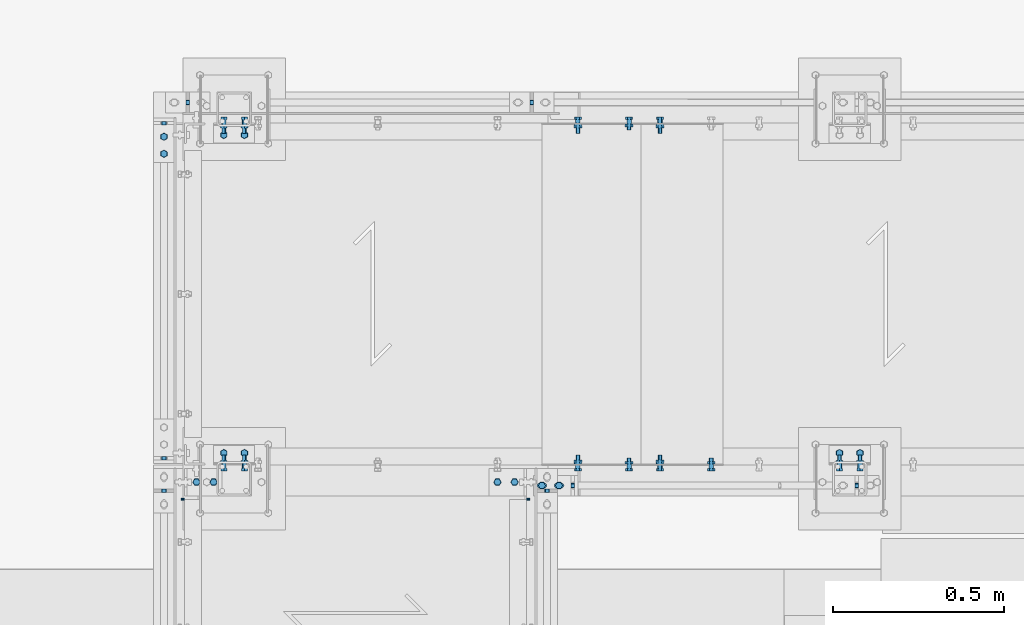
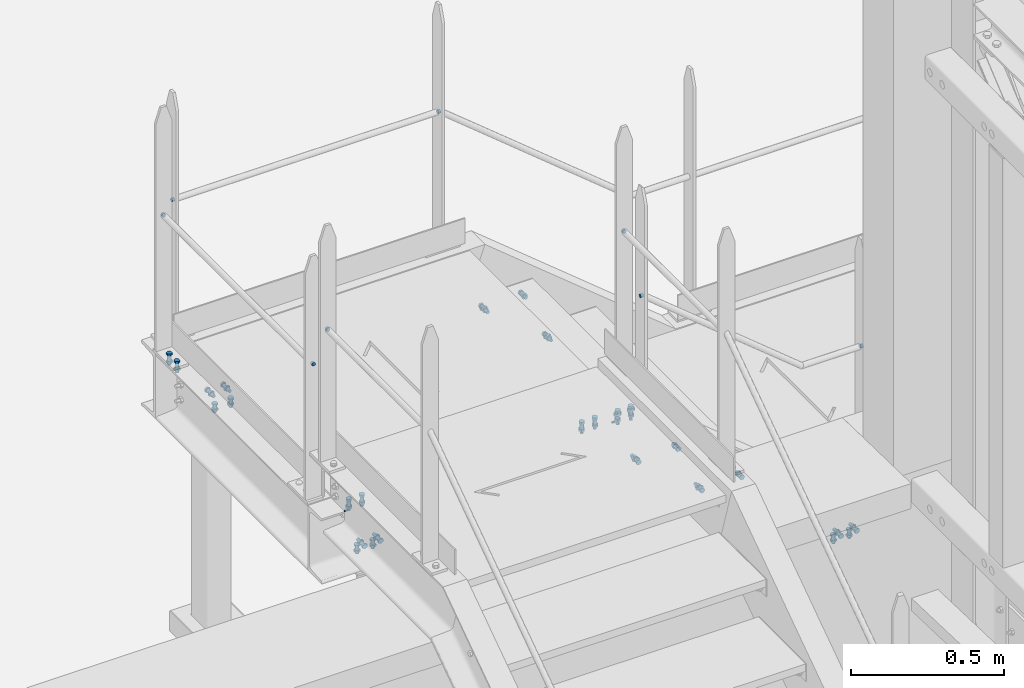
# One storey, part 337 of 362: 27 mechanical fasteners.
"""IFC2X3 building model written with IfcOpenShell, lengths in millimetres."""

import ifcopenshell
import ifcopenshell.guid

model = None  # the IFC model being written
_history = None  # IfcOwnerHistory: only IFC2X3 demands one
_inside = {}  # id of a spatial element -> (the spatial element, [elements in it])
_under = {}  # id of a project, library or spatial element -> (it, [spatial elements below it])
_declared = {}  # id of a project -> (the project, [libraries it declares])
_typed = {}  # id of a type object -> (the type object, [elements of that type])
_made_of = {}  # id of a material, layer set ... -> (it, [elements and type objects made of it])


def new_model(schema):
    """Start an empty IFC model of exactly this schema.

    Asked for "IFC4X3", IfcOpenShell would pick the latest addendum, in which some entities
    have other attributes; the version numbers below select the first issue.
    IFC2X3 requires an IfcOwnerHistory on every rooted entity: one is made here for all.
    """
    global model, _history
    if schema == "IFC4X3":
        model = ifcopenshell.file(schema_version=(4, 3, 0, 0))
    else:
        model = ifcopenshell.file(schema=schema)
    _inside.clear()
    _under.clear()
    _declared.clear()
    _typed.clear()
    _made_of.clear()
    _history = None
    if model.schema == "IFC2X3":
        org = make("IfcOrganization", Name="unknown")
        user = make(
            "IfcPersonAndOrganization",
            ThePerson=make("IfcPerson", FamilyName="unknown"),
            TheOrganization=org,
        )
        app = make(
            "IfcApplication",
            ApplicationDeveloper=org,
            Version="unknown",
            ApplicationFullName="unknown",
            ApplicationIdentifier="unknown",
        )
        _history = make(
            "IfcOwnerHistory",
            OwningUser=user,
            OwningApplication=app,
            ChangeAction="ADDED",
            CreationDate=0,
        )
    return model


def make(cls, **values):
    """One entity of the class cls with the attributes given. An attribute that is None is left unset."""
    return model.create_entity(
        cls, **{name: value for name, value in values.items() if value is not None}
    )


def rooted(cls, **values):
    """An entity with a GlobalId (a new one), such as an element, a storey or a relation."""
    return make(cls, GlobalId=ifcopenshell.guid.new(), OwnerHistory=_history, **values)


def si_unit(unit_type, name, prefix=None):
    """IfcSIUnit, for example si_unit("LENGTHUNIT", "METRE", prefix="MILLI")."""
    return make("IfcSIUnit", UnitType=unit_type, Prefix=prefix, Name=name)


def assignment(units):
    """IfcUnitAssignment: the units of a project."""
    return None if units is None else make("IfcUnitAssignment", Units=units)


def point(xyz):
    """IfcCartesianPoint."""
    return None if xyz is None else make("IfcCartesianPoint", Coordinates=xyz)


def direction(xyz):
    """IfcDirection."""
    return None if xyz is None else make("IfcDirection", DirectionRatios=xyz)


def frame(location, z_axis=None, x_axis=None):
    """IfcAxis2Placement3D, a coordinate frame: its origin and axes. An axis left out is left unset."""
    return make(
        "IfcAxis2Placement3D",
        Location=point(location),
        Axis=direction(z_axis),
        RefDirection=direction(x_axis),
    )


def frame_2d(location, x_axis=None):
    """IfcAxis2Placement2D, a coordinate frame in the plane: its origin and x axis."""
    return make(
        "IfcAxis2Placement2D", Location=point(location), RefDirection=direction(x_axis)
    )


def origin_with_axes():
    """The frame at (0, 0, 0) with the z axis (0, 0, 1) and the x axis (1, 0, 0) written out."""
    return frame((0.0, 0.0, 0.0), z_axis=(0.0, 0.0, 1.0), x_axis=(1.0, 0.0, 0.0))


def origin_2d_with_axis():
    """The frame at (0, 0) in the plane with the x axis (1, 0) written out."""
    return frame_2d((0.0, 0.0), x_axis=(1.0, 0.0))


def place(relative_to, where):
    """IfcLocalPlacement: puts the frame where relative to a parent placement (None: the world)."""
    return make(
        "IfcLocalPlacement", PlacementRelTo=relative_to, RelativePlacement=where
    )


def context(
    kind, dimensions, precision=None, world=None, true_north=None, identifier=None
):
    """IfcGeometricRepresentationContext, for example the 3D "Model" context."""
    return make(
        "IfcGeometricRepresentationContext",
        ContextIdentifier=identifier,
        ContextType=kind,
        CoordinateSpaceDimension=dimensions,
        Precision=precision,
        WorldCoordinateSystem=world,
        TrueNorth=true_north,
    )


def subcontext(parent, identifier, kind, view, scale=None):
    """IfcGeometricRepresentationSubContext, for example "Body" below "Model"."""
    return make(
        "IfcGeometricRepresentationSubContext",
        ContextIdentifier=identifier,
        ContextType=kind,
        ParentContext=parent,
        TargetScale=scale,
        TargetView=view,
    )


def project(units=None, contexts=None):
    """IfcProject with its units and contexts."""
    return rooted(
        "IfcProject",
        Name="project",
        RepresentationContexts=contexts,
        UnitsInContext=assignment(units),
    )


def spatial(cls, under=None, at=None, **own):
    """A site, building, storey or space (cls), placed at a placement, below another one or the project."""
    s = rooted(cls, ObjectPlacement=at, **own)
    if under is not None:
        _under.setdefault(under.id(), (under, []))[1].append(s)
    return s


def polyline(points):
    """IfcPolyline through the points."""
    return make("IfcPolyline", Points=[point(p) for p in points])


def circle_curve(where, radius):
    """IfcCircle in the frame where."""
    return make("IfcCircle", Position=where, Radius=radius)


def parameter(value):
    """IfcParameterValue: where a trimmed curve begins or ends, as a parameter of its basis curve."""
    return model.create_entity("IfcParameterValue", value)


def trimmed(basis, trim1, trim2, sense, master):
    """IfcTrimmedCurve: the piece of a basis curve between two trims."""
    return make(
        "IfcTrimmedCurve",
        BasisCurve=basis,
        Trim1=trim1,
        Trim2=trim2,
        SenseAgreement=sense,
        MasterRepresentation=master,
    )


def segment(curve, same_sense, transition):
    """IfcCompositeCurveSegment."""
    return make(
        "IfcCompositeCurveSegment",
        Transition=transition,
        SameSense=same_sense,
        ParentCurve=curve,
    )


def composite_curve(segments, self_intersect=None):
    """IfcCompositeCurve: segments joined end to end."""
    return make("IfcCompositeCurve", Segments=segments, SelfIntersect=self_intersect)


def profile(cls, at=None, kind="AREA", **sizes):
    """A parametric profile (cls). Its sizes go by their IFC names, for example OverallWidth=200.0."""
    return make(cls, ProfileType=kind, Position=at, **sizes)


def circle(**sizes):
    """IfcCircleProfileDef."""
    return profile("IfcCircleProfileDef", **sizes)


def outline(outer, holes=None, kind="AREA"):
    """IfcArbitraryClosedProfileDef: a profile drawn as a closed curve; with holes, ...WithVoids."""
    if holes is None:
        return make("IfcArbitraryClosedProfileDef", ProfileType=kind, OuterCurve=outer)
    return make(
        "IfcArbitraryProfileDefWithVoids",
        ProfileType=kind,
        OuterCurve=outer,
        InnerCurves=holes,
    )


def extrude(swept, where, along, depth):
    """IfcExtrudedAreaSolid: the profile swept, set in the frame where, extruded along a direction by depth."""
    return make(
        "IfcExtrudedAreaSolid",
        SweptArea=swept,
        Position=where,
        ExtrudedDirection=direction(along),
        Depth=depth,
    )


def shape(context_of_items, identifier, shape_type, items):
    """IfcShapeRepresentation: the items that make up one representation, for example the "Body"."""
    return make(
        "IfcShapeRepresentation",
        ContextOfItems=context_of_items,
        RepresentationIdentifier=identifier,
        RepresentationType=shape_type,
        Items=items,
    )


def source(mapping_origin, context_of_items, identifier, shape_type, items):
    """IfcRepresentationMap: a shape defined once, which mapped items show again and again."""
    return make(
        "IfcRepresentationMap",
        MappingOrigin=mapping_origin,
        MappedRepresentation=shape(context_of_items, identifier, shape_type, items),
    )


def transform(
    local_origin,
    x_axis=None,
    y_axis=None,
    z_axis=None,
    scale=None,
    scale2=None,
    scale3=None,
    uniform=True,
):
    """IfcCartesianTransformationOperator3D, or its non-uniform kind. x_axis, y_axis, z_axis: its Axis1, 2, 3."""
    if uniform:
        return make(
            "IfcCartesianTransformationOperator3D",
            Axis1=direction(x_axis),
            Axis2=direction(y_axis),
            LocalOrigin=point(local_origin),
            Scale=scale,
            Axis3=direction(z_axis),
        )
    return make(
        "IfcCartesianTransformationOperator3DnonUniform",
        Axis1=direction(x_axis),
        Axis2=direction(y_axis),
        LocalOrigin=point(local_origin),
        Scale=scale,
        Axis3=direction(z_axis),
        Scale2=scale2,
        Scale3=scale3,
    )


def mapped(mapping_source, mapping_target):
    """IfcMappedItem: shows the shape of a source again, moved by a transform."""
    return make(
        "IfcMappedItem", MappingSource=mapping_source, MappingTarget=mapping_target
    )


def material(Name=None, Category=None):
    """IfcMaterial."""
    return make("IfcMaterial", Name=Name, Category=Category)


def made_of(thing, what):
    """Note that an element or type object is made of a material, layer set ...; save() writes the relation."""
    if what is not None:
        _made_of.setdefault(what.id(), (what, []))[1].append(thing)
    return thing


def type_object(cls, material=None, **own):
    """A type object (cls), such as IfcWallType, which elements share."""
    return made_of(rooted(cls, **own), material)


def element(
    cls,
    number,
    at=None,
    inside=None,
    cuts=None,
    type_object=None,
    material=None,
    context=None,
    identifier="Body",
    shape_type=None,
    held_by="IfcProductDefinitionShape",
    body=None,
    shapes=None,
    **own,
):
    """One element of the class cls, such as IfcWall. Its Tag is "e" and its number.

    at: its placement. inside: the storey or other place that contains it. cuts: it is an
    opening in that element (IfcRelVoidsElement). A single representation is given by context,
    identifier, shape_type and body (its items); several are given by shapes. held_by: the class
    of the entity that holds the representations. save() writes the other relations.
    """
    e = rooted(cls, Tag="e%d" % number, ObjectPlacement=at, **own)
    if body is not None:
        shapes = [shape(context, identifier, shape_type, body)]
    if shapes is not None:
        e.Representation = make(held_by, Representations=shapes)
    if inside is not None:
        _inside.setdefault(inside.id(), (inside, []))[1].append(e)
    if cuts is not None:
        rooted(
            "IfcRelVoidsElement", RelatingBuildingElement=cuts, RelatedOpeningElement=e
        )
    if type_object is not None:
        _typed.setdefault(type_object.id(), (type_object, []))[1].append(e)
    return made_of(e, material)


def aggregate(whole, parts):
    """IfcRelAggregates: a whole, such as a stair, and the parts it consists of."""
    return rooted("IfcRelAggregates", RelatingObject=whole, RelatedObjects=parts)


def save(model, path):
    """Write the relations noted so far, then the file.

    IfcRelAggregates (storeys below a building ...), IfcRelContainedInSpatialStructure (elements
    in a storey), IfcRelDefinesByType, IfcRelAssociatesMaterial and IfcRelDeclares: one each for
    every whole, place, type object, material and project.
    """
    for whole, parts in _under.values():
        aggregate(whole, parts)
    for where, things in _inside.values():
        rooted(
            "IfcRelContainedInSpatialStructure",
            RelatedElements=things,
            RelatingStructure=where,
        )
    for kind, things in _typed.values():
        rooted("IfcRelDefinesByType", RelatedObjects=things, RelatingType=kind)
    for what, things in _made_of.values():
        rooted("IfcRelAssociatesMaterial", RelatedObjects=things, RelatingMaterial=what)
    for by, libraries in _declared.values():
        rooted("IfcRelDeclares", RelatingContext=by, RelatedDefinitions=libraries)
    model.write(path)


model = new_model("IFC2X3")

# Units and contexts
model_context = context("Model", 3, precision=1e-05, world=origin_with_axes())
body_context = subcontext(model_context, "Body", "Model", "MODEL_VIEW")
ifc_project = project(units=[si_unit("LENGTHUNIT", "METRE", prefix="MILLI"), si_unit("AREAUNIT", "SQUARE_METRE"), si_unit("VOLUMEUNIT", "CUBIC_METRE"), si_unit("MASSUNIT", "GRAM", prefix="KILO"), si_unit("TIMEUNIT", "SECOND"), si_unit("PLANEANGLEUNIT", "RADIAN"), si_unit("SOLIDANGLEUNIT", "STERADIAN"), si_unit("THERMODYNAMICTEMPERATUREUNIT", "DEGREE_CELSIUS"), si_unit("LUMINOUSINTENSITYUNIT", "LUMEN")], contexts=[model_context])

# Site, building, storey
site_placement = place(None, origin_with_axes())
site = spatial("IfcSite", under=ifc_project, at=site_placement, Name="Undefined", CompositionType="ELEMENT")
building_placement = place(site_placement, origin_with_axes())
building = spatial("IfcBuilding", under=site, at=building_placement, Name="Undefined", CompositionType="ELEMENT")
storey_placement = place(building_placement, origin_with_axes())
storey = spatial("IfcBuildingStorey", under=building, at=storey_placement, Name="Undefined", CompositionType="ELEMENT", Elevation=0.0)

# Mechanical fasteners
ifc_material_1 = material(Name="6.8")
mechanical_fastener_type = type_object("IfcMechanicalFastenerType", Name="Bolt assembly")
shared_shape_1 = source(origin_with_axes(), body_context, "Body", "SweptSolid", [
    extrude(circle(Radius=7.0, at=origin_2d_with_axis()), frame((0.0, -5.00000000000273, 0.0), z_axis=(0.0, 1.0, 0.0), x_axis=(1.0, 0.0, 0.0)), (0.0, 0.0, 1.0), 10.1),
])
for number, where, z_axis, x_axis, name in (
    (1, (34275.0061849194, 15970.0000882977, 8653.7999407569), (0.0, 0.0, 1.0), (0.0, 1.0, 0.0), "Bolt assembly"),
    (2, (33325.0061849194, 17089.9938659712, 9243.80000001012), (0.0, 0.0, -1.0), (0.0, -1.0, 0.0), "Bolt assembly"),
    (3, (32319.9961849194, 17089.9938659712, 9243.80000001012), (0.0, 0.0, 1.0), (0.0, -1.0, 0.0), "Bolt assembly"),
    (4, (32249.9863365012, 16050.0036560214, 9243.80000001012), (0.0, 0.0, -1.0), (1.0, 0.0, 0.0), "Bolt assembly"),
    (5, (32249.9863365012, 17029.9977309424, 9243.80000001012), (0.0, 0.0, -1.0), (1.0, 0.0, 0.0), "Bolt assembly"),
    (6, (32249.9863365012, 15955.003622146, 9438.8), (0.0, 0.0, -1.0), (1.0, 0.0, 0.0), "Bolt assembly"),
    (7, (33369.9936634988, 15954.9996684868, 9438.8), (0.0, 0.0, 1.0), (-1.0, 0.0, 0.0), "Bolt assembly"),
):
    element("IfcMechanicalFastener", number, at=place(storey_placement, frame(where, z_axis=z_axis, x_axis=x_axis)), inside=storey, type_object=mechanical_fastener_type, material=ifc_material_1, Name=name, NominalDiameter=12.0, NominalLength=10.0, context=body_context, shape_type="MappedRepresentation", body=[
        mapped(shared_shape_1, transform((0.0, 0.0, 0.0))),
    ])
shared_shape_2 = source(origin_with_axes(), body_context, "Body", "SweptSolid", [
    extrude(circle(Radius=7.0, at=origin_2d_with_axis()), frame((0.0, 0.0, 0.0), z_axis=(0.0, 1.0, 0.0), x_axis=(1.0, 0.0, 0.0)), (0.0, 0.0, 1.0), 10.1),
])
mechanical_fastener_1_placement = place(storey_placement, frame((33450.0061849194, 15970.0000882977, 9145.70267124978), z_axis=(0.0, 0.0, 1.0), x_axis=(0.0, 1.0, 0.0)))
element("IfcMechanicalFastener", 8, at=mechanical_fastener_1_placement, inside=storey, type_object=mechanical_fastener_type, material=ifc_material_1, Name="Bolt assembly", NominalDiameter=12.0, NominalLength=10.0, context=body_context, shape_type="MappedRepresentation", body=[
    mapped(shared_shape_2, transform((0.0, 0.0, 0.0))),
])
ifc_material_2 = material(Name="8.8-SB-GALVA")
shared_shape_3 = source(origin_with_axes(), body_context, "Body", "SweptSolid", [
    extrude(circle(Radius=7.0, at=origin_2d_with_axis()), frame((0.0, -0.100011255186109, 0.0), z_axis=(0.0, 1.0, 0.0), x_axis=(1.0, 0.0, 0.0)), (0.0, 0.0, 1.0), 12.9),
    extrude(outline(composite_curve([segment(polyline([(-7.0, 7.0), (7.0, 7.0)]), True, "CONTINUOUS"), segment(trimmed(circle_curve(frame_2d((7.0, 0.0), x_axis=(0.0, 1.0)), 7.0), [parameter(0.0)], [parameter(3.14159265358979)], False, "PARAMETER"), True, "CONTINUOUS"), segment(polyline([(7.0, -7.0), (-7.0, -7.0)]), True, "CONTINUOUS"), segment(trimmed(circle_curve(frame_2d((-7.0, 0.0), x_axis=(0.0, -1.0)), 7.0), [parameter(0.0)], [parameter(3.14159265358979)], False, "PARAMETER"), True, "DISCONTINUOUS")], self_intersect=False)), frame((0.0, -9.9, 0.0), z_axis=(0.0, 1.0, 0.0), x_axis=(1.0, 0.0, 0.0)), (0.0, 0.0, 1.0), 10.0),
    extrude(outline(polyline([(10.39230484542, 0.0), (5.19615242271, 9.00000000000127), (-5.19615242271, 9.00000000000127), (-10.39230484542, 0.0), (-5.19615242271, -9.00000000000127), (5.19615242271, -9.00000000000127), (10.39230484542, 0.0)])), frame((0.0, -21.88, 0.0), z_axis=(0.0, 1.0, 0.0), x_axis=(1.0, 0.0, 0.0)), (0.0, 0.0, 1.0), 7.92),
    extrude(circle(Radius=6.0, at=origin_2d_with_axis()), frame((0.0, -13.96, 0.0), z_axis=(0.0, 1.0, 0.0), x_axis=(1.0, 0.0, 0.0)), (0.0, 0.0, 1.0), 50.0),
    extrude(circle(Radius=10.8, at=origin_2d_with_axis()), frame((0.0, -13.96, 0.0), z_axis=(0.0, 1.0, 0.0), x_axis=(1.0, 0.0, 0.0)), (0.0, 0.0, 1.0), 3.96),
    extrude(outline(polyline([(11.5008173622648, 0.0), (5.7504086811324, 9.96000000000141), (-5.7504086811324, 9.96000000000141), (-11.5008173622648, 0.0), (-5.7504086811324, -9.96000000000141), (5.7504086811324, -9.96000000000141), (11.5008173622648, 0.0)])), frame((0.0, 12.7997094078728, 0.0), z_axis=(0.0, 1.0, 0.0), x_axis=(1.0, 0.0, 0.0)), (0.0, 0.0, 1.0), 7.92),
])
mechanical_fastener_2_placement = place(storey_placement, frame((33355.0061849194, 15970.0000882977, 8700.00015961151), z_axis=(0.0, 1.0, 0.0), x_axis=(1.0, 0.0, 0.0)))
element("IfcMechanicalFastener", 9, at=mechanical_fastener_2_placement, inside=storey, type_object=mechanical_fastener_type, material=ifc_material_2, Name="Bolt assembly", NominalDiameter=12.0, NominalLength=50.0, context=body_context, shape_type="MappedRepresentation", body=[
    mapped(shared_shape_3, transform((0.0, 0.0, 0.0))),
    mapped(shared_shape_3, transform((49.9999999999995, 0.0, -3.63797880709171e-12))),
])
shared_shape_4 = source(origin_with_axes(), body_context, "Body", "SweptSolid", [
    extrude(circle(Radius=7.0, at=origin_2d_with_axis()), frame((0.0, -0.100011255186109, 0.0), z_axis=(0.0, 1.0, 0.0), x_axis=(1.0, 0.0, 0.0)), (0.0, 0.0, 1.0), 12.9),
    extrude(circle(Radius=7.0, at=origin_2d_with_axis()), frame((0.0, -9.9, 0.0), z_axis=(0.0, 1.0, 0.0), x_axis=(1.0, 0.0, 0.0)), (0.0, 0.0, 1.0), 10.0),
    extrude(outline(polyline([(10.39230484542, 0.0), (5.19615242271, 9.00000000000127), (-5.19615242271, 9.00000000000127), (-10.39230484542, 0.0), (-5.19615242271, -9.00000000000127), (5.19615242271, -9.00000000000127), (10.39230484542, 0.0)])), frame((0.0, -17.92, 0.0), z_axis=(0.0, 1.0, 0.0), x_axis=(1.0, 0.0, 0.0)), (0.0, 0.0, 1.0), 7.92),
    extrude(circle(Radius=6.0, at=origin_2d_with_axis()), frame((0.0, -10.0000010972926, 0.0), z_axis=(0.0, 1.0, 0.0), x_axis=(1.0, 0.0, 0.0)), (0.0, 0.0, 1.0), 40.0),
    extrude(outline(polyline([(11.5008173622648, 0.0), (5.7504086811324, 9.96000000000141), (-5.7504086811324, 9.96000000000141), (-11.5008173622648, 0.0), (-5.7504086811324, -9.96000000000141), (5.7504086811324, -9.96000000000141), (11.5008173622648, 0.0)])), frame((0.0, 12.7988639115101, 0.0), z_axis=(0.0, 1.0, 0.0), x_axis=(1.0, 0.0, 0.0)), (0.0, 0.0, 1.0), 7.92),
])
mechanical_fastener_3_placement = place(storey_placement, frame((32249.9863365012, 16939.9977309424, 8700.00000001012), z_axis=(-1.0, 0.0, 0.0), x_axis=(0.0, 1.0, 0.0)))
element("IfcMechanicalFastener", 10, at=mechanical_fastener_3_placement, inside=storey, type_object=mechanical_fastener_type, material=ifc_material_2, Name="Bolt assembly", NominalDiameter=12.0, NominalLength=40.0, context=body_context, shape_type="MappedRepresentation", body=[
    mapped(shared_shape_4, transform((0.0, 0.0, 0.0))),
    mapped(shared_shape_4, transform((49.9999999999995, 0.0, -3.63797880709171e-12))),
])
shared_shape_5 = source(origin_with_axes(), body_context, "Body", "SweptSolid", [
    extrude(circle(Radius=7.0, at=origin_2d_with_axis()), frame((0.0, -0.10007666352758, 0.0), z_axis=(0.0, 1.0, 0.0), x_axis=(1.0, 0.0, 0.0)), (0.0, 0.0, 1.0), 8.1),
    extrude(circle(Radius=7.0, at=origin_2d_with_axis()), frame((0.0, -5.8999542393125, 0.0), z_axis=(0.0, 1.0, 0.0), x_axis=(1.0, 0.0, 0.0)), (0.0, 0.0, 1.0), 6.0),
    extrude(outline(polyline([(10.39230484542, 0.0), (5.19615242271, 9.00000000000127), (-5.19615242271, 9.00000000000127), (-10.39230484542, 0.0), (-5.19615242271, -9.00000000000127), (5.19615242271, -9.00000000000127), (10.39230484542, 0.0)])), frame((0.0, -13.9199542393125, 0.0), z_axis=(0.0, 1.0, 0.0), x_axis=(1.0, 0.0, 0.0)), (0.0, 0.0, 1.0), 7.92),
    extrude(circle(Radius=6.0, at=origin_2d_with_axis()), frame((0.0, -5.9999542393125, 0.0), z_axis=(0.0, 1.0, 0.0), x_axis=(1.0, 0.0, 0.0)), (0.0, 0.0, 1.0), 30.0),
    extrude(outline(polyline([(11.5008173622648, 0.0), (5.7504086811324, 9.96000000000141), (-5.7504086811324, 9.96000000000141), (-11.5008173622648, 0.0), (-5.7504086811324, -9.96000000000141), (5.7504086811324, -9.96000000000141), (11.5008173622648, 0.0)])), frame((0.0, 7.99992914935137, 0.0), z_axis=(0.0, 1.0, 0.0), x_axis=(1.0, 0.0, 0.0)), (0.0, 0.0, 1.0), 7.92),
])
for number, where, z_axis, x_axis, name in (
    (11, (32455.0000000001, 16064.9999136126, 8440.00004576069), (1.0, 0.0, 0.0), (0.0, -1.0, 0.0), "Bolt assembly"),
    (12, (34255.0000000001, 16064.9999136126, 7849.9999407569), (1.0, 0.0, 0.0), (0.0, -1.0, 0.0), "Bolt assembly"),
):
    element("IfcMechanicalFastener", number, at=place(storey_placement, frame(where, z_axis=z_axis, x_axis=x_axis)), inside=storey, type_object=mechanical_fastener_type, material=ifc_material_2, Name=name, NominalDiameter=12.0, NominalLength=30.0, context=body_context, shape_type="MappedRepresentation", body=[
        mapped(shared_shape_5, transform((0.0, 0.0, 30.0))),
        mapped(shared_shape_5, transform((0.0, 0.0, -30.0))),
    ])
mechanical_fastener_4_placement = place(storey_placement, frame((32455.0000000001, 16994.9996684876, 8440.00004576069), z_axis=(-1.0, 0.0, 0.0), x_axis=(0.0, 1.0, 0.0)))
element("IfcMechanicalFastener", 13, at=mechanical_fastener_4_placement, inside=storey, type_object=mechanical_fastener_type, material=ifc_material_2, Name="Bolt assembly", NominalDiameter=12.0, NominalLength=30.0, context=body_context, shape_type="MappedRepresentation", body=[
    mapped(shared_shape_5, transform((0.0, 0.0, -30.0))),
    mapped(shared_shape_5, transform((0.0, 0.0, 30.0))),
])
shared_shape_6 = source(origin_with_axes(), body_context, "Body", "SweptSolid", [
    extrude(circle(Radius=4.0, at=origin_2d_with_axis()), frame((0.0, -44.9964209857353, 0.0), z_axis=(0.0, 1.0, 0.0), x_axis=(1.0, 0.0, 0.0)), (0.0, 0.0, 1.0), 10.1),
])
for number, where, z_axis, x_axis, name in (
    (14, (33355.0019070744, 15930.0036039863, 8710.00016784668), (0.0, -1.0, 0.0), (0.0, 0.0, -1.0), "Bolt assembly"),
    (15, (32265.0061245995, 15930.0036039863, 8710.00016784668), (0.0, 1.0, 0.0), (0.0, 0.0, -1.0), "Bolt assembly"),
):
    element("IfcMechanicalFastener", number, at=place(storey_placement, frame(where, z_axis=z_axis, x_axis=x_axis)), inside=storey, type_object=mechanical_fastener_type, material=ifc_material_1, Name=name, NominalDiameter=6.0, NominalLength=10.0, context=body_context, shape_type="MappedRepresentation", body=[
        mapped(shared_shape_6, transform((0.0, 0.0, 0.0))),
    ])
shared_shape_7 = source(origin_with_axes(), body_context, "Body", "SweptSolid", [
    extrude(circle(Radius=7.0, at=origin_2d_with_axis()), frame((0.0, -0.100155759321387, 0.0), z_axis=(0.0, 1.0, 0.0), x_axis=(1.0, 0.0, 0.0)), (0.0, 0.0, 1.0), 13.7),
    extrude(circle(Radius=7.0, at=origin_2d_with_axis()), frame((0.0, -7.9, 0.0), z_axis=(0.0, 1.0, 0.0), x_axis=(1.0, 0.0, 0.0)), (0.0, 0.0, 1.0), 8.0),
    extrude(outline(polyline([(10.39230484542, 0.0), (5.19615242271, 9.00000000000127), (-5.19615242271, 9.00000000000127), (-10.39230484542, 0.0), (-5.19615242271, -9.00000000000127), (5.19615242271, -9.00000000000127), (10.39230484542, 0.0)])), frame((0.0, -15.92, 0.0), z_axis=(0.0, 1.0, 0.0), x_axis=(1.0, 0.0, 0.0)), (0.0, 0.0, 1.0), 7.92),
    extrude(circle(Radius=6.0, at=origin_2d_with_axis()), frame((0.0, -8.0, 0.0), z_axis=(0.0, 1.0, 0.0), x_axis=(1.0, 0.0, 0.0)), (0.0, 0.0, 1.0), 40.0),
    extrude(outline(polyline([(11.5008173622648, 0.0), (5.7504086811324, 9.96000000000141), (-5.7504086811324, 9.96000000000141), (-11.5008173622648, 0.0), (-5.7504086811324, -9.96000000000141), (5.7504086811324, -9.96000000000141), (11.5008173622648, 0.0)])), frame((0.0, 13.6000382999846, 0.0), z_axis=(0.0, 1.0, 0.0), x_axis=(1.0, 0.0, 0.0)), (0.0, 0.0, 1.0), 7.92),
])
mechanical_fastener_5_placement = place(storey_placement, frame((33225.0050724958, 15980.0058471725, 8700.0), z_axis=(0.0, 1.0, 0.0), x_axis=(1.0, 0.0, 0.0)))
element("IfcMechanicalFastener", 16, at=mechanical_fastener_5_placement, inside=storey, type_object=mechanical_fastener_type, material=ifc_material_2, Name="Bolt assembly", NominalDiameter=12.0, NominalLength=40.0, context=body_context, shape_type="MappedRepresentation", body=[
    mapped(shared_shape_7, transform((0.0, 0.0, 0.0))),
    mapped(shared_shape_7, transform((49.9999999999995, 0.0, -3.63797880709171e-12))),
])
shared_shape_8 = source(origin_with_axes(), body_context, "Body", "SweptSolid", [
    extrude(circle(Radius=7.0, at=origin_2d_with_axis()), frame((0.0, -9.89425736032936, 0.0), z_axis=(0.0, 1.0, 0.0), x_axis=(1.0, 0.0, 0.0)), (0.0, 0.0, 1.0), 10.0),
    extrude(circle(Radius=7.0, at=origin_2d_with_axis()), frame((0.0, -0.100011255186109, 0.0), z_axis=(0.0, 1.0, 0.0), x_axis=(1.0, 0.0, 0.0)), (0.0, 0.0, 1.0), 6.1),
    extrude(outline(polyline([(10.39230484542, 0.0), (5.19615242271, 9.00000000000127), (-5.19615242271, 9.00000000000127), (-10.39230484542, 0.0), (-5.19615242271, -9.00000000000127), (5.19615242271, -9.00000000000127), (10.39230484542, 0.0)])), frame((0.0, -17.9142573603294, 0.0), z_axis=(0.0, 1.0, 0.0), x_axis=(1.0, 0.0, 0.0)), (0.0, 0.0, 1.0), 7.92),
    extrude(circle(Radius=6.0, at=origin_2d_with_axis()), frame((0.0, -9.99425736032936, 0.0), z_axis=(0.0, 1.0, 0.0), x_axis=(1.0, 0.0, 0.0)), (0.0, 0.0, 1.0), 40.0),
    extrude(outline(polyline([(11.5008173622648, 0.0), (5.7504086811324, 9.96000000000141), (-5.7504086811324, 9.96000000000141), (-11.5008173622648, 0.0), (-5.7504086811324, -9.96000000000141), (5.7504086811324, -9.96000000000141), (11.5008173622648, 0.0)])), frame((0.0, 6.0, 0.0), z_axis=(0.0, 1.0, 0.0), x_axis=(1.0, 0.0, 0.0)), (0.0, 0.0, 1.0), 7.92),
])
mechanical_fastener_6_placement = place(storey_placement, frame((32455.0000000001, 16029.9999136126, 8475.00004576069), z_axis=(1.0, 0.0, 0.0), x_axis=(0.0, 0.0, -1.0)))
element("IfcMechanicalFastener", 17, at=mechanical_fastener_6_placement, inside=storey, type_object=mechanical_fastener_type, material=ifc_material_2, Name="Bolt assembly", NominalDiameter=12.0, NominalLength=40.0, context=body_context, shape_type="MappedRepresentation", body=[
    mapped(shared_shape_8, transform((0.0, 0.0, 30.0))),
    mapped(shared_shape_8, transform((0.0, 0.0, -30.0))),
])
mechanical_fastener_7_placement = place(storey_placement, frame((32455.0000000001, 17029.9996684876, 8475.00004576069), z_axis=(-1.0, 0.0, 0.0), x_axis=(0.0, 0.0, -1.0)))
element("IfcMechanicalFastener", 18, at=mechanical_fastener_7_placement, inside=storey, type_object=mechanical_fastener_type, material=ifc_material_2, Name="Bolt assembly", NominalDiameter=12.0, NominalLength=40.0, context=body_context, shape_type="MappedRepresentation", body=[
    mapped(shared_shape_8, transform((0.0, 0.0, -30.0))),
    mapped(shared_shape_8, transform((0.0, 0.0, 30.0))),
])
shared_shape_9 = source(origin_with_axes(), body_context, "Body", "SweptSolid", [
    extrude(circle(Radius=7.0, at=origin_2d_with_axis()), frame((0.0, -9.90024512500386, 0.0), z_axis=(0.0, 1.0, 0.0), x_axis=(1.0, 0.0, 0.0)), (0.0, 0.0, 1.0), 10.0),
    extrude(circle(Radius=7.0, at=origin_2d_with_axis()), frame((0.0, -0.100011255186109, 0.0), z_axis=(0.0, 1.0, 0.0), x_axis=(1.0, 0.0, 0.0)), (0.0, 0.0, 1.0), 6.1),
    extrude(outline(polyline([(10.39230484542, 0.0), (5.19615242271, 9.00000000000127), (-5.19615242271, 9.00000000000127), (-10.39230484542, 0.0), (-5.19615242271, -9.00000000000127), (5.19615242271, -9.00000000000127), (10.39230484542, 0.0)])), frame((0.0, -17.9202451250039, 0.0), z_axis=(0.0, 1.0, 0.0), x_axis=(1.0, 0.0, 0.0)), (0.0, 0.0, 1.0), 7.92),
    extrude(circle(Radius=6.0, at=origin_2d_with_axis()), frame((0.0, -10.0002451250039, 0.0), z_axis=(0.0, 1.0, 0.0), x_axis=(1.0, 0.0, 0.0)), (0.0, 0.0, 1.0), 40.0),
    extrude(outline(polyline([(11.5008173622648, 0.0), (5.7504086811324, 9.96000000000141), (-5.7504086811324, 9.96000000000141), (-11.5008173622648, 0.0), (-5.7504086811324, -9.96000000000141), (5.7504086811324, -9.96000000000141), (11.5008173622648, 0.0)])), frame((0.0, 6.0, 0.0), z_axis=(0.0, 1.0, 0.0), x_axis=(1.0, 0.0, 0.0)), (0.0, 0.0, 1.0), 7.92),
])
mechanical_fastener_8_placement = place(storey_placement, frame((34255.0000000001, 16029.9999136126, 7884.9999407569), z_axis=(1.0, 0.0, 0.0), x_axis=(0.0, 0.0, -1.0)))
element("IfcMechanicalFastener", 19, at=mechanical_fastener_8_placement, inside=storey, type_object=mechanical_fastener_type, material=ifc_material_2, Name="Bolt assembly", NominalDiameter=12.0, NominalLength=40.0, context=body_context, shape_type="MappedRepresentation", body=[
    mapped(shared_shape_9, transform((0.0, 0.0, 30.0))),
    mapped(shared_shape_9, transform((0.0, 0.0, -30.0))),
])
shared_shape_10 = source(origin_with_axes(), body_context, "Body", "SweptSolid", [
    extrude(circle(Radius=7.0, at=origin_2d_with_axis()), frame((0.0, -9.89603460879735, 0.0), z_axis=(0.0, 1.0, 0.0), x_axis=(1.0, 0.0, 0.0)), (0.0, 0.0, 1.0), 10.0),
    extrude(outline(composite_curve([segment(polyline([(-7.0, 7.0), (7.0, 7.0)]), True, "CONTINUOUS"), segment(trimmed(circle_curve(frame_2d((7.0, 0.0), x_axis=(0.0, 1.0)), 7.0), [parameter(0.0)], [parameter(3.14159265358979)], False, "PARAMETER"), True, "CONTINUOUS"), segment(polyline([(7.0, -7.0), (-7.0, -7.0)]), True, "CONTINUOUS"), segment(trimmed(circle_curve(frame_2d((-7.0, 0.0), x_axis=(0.0, -1.0)), 7.0), [parameter(0.0)], [parameter(3.14159265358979)], False, "PARAMETER"), True, "DISCONTINUOUS")], self_intersect=False)), frame((0.0, -0.100011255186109, 0.0), z_axis=(0.0, 1.0, 0.0), x_axis=(1.0, 0.0, 0.0)), (0.0, 0.0, 1.0), 3.1),
    extrude(outline(polyline([(10.39230484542, 0.0), (5.19615242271, 9.00000000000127), (-5.19615242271, 9.00000000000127), (-10.39230484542, 0.0), (-5.19615242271, -9.00000000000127), (5.19615242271, -9.00000000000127), (10.39230484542, 0.0)])), frame((0.0, -17.9160346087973, 0.0), z_axis=(0.0, 1.0, 0.0), x_axis=(1.0, 0.0, 0.0)), (0.0, 0.0, 1.0), 7.92),
    extrude(circle(Radius=6.0, at=origin_2d_with_axis()), frame((0.0, -9.99603460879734, 0.0), z_axis=(0.0, 1.0, 0.0), x_axis=(1.0, 0.0, 0.0)), (0.0, 0.0, 1.0), 40.0),
    extrude(circle(Radius=10.8, at=origin_2d_with_axis()), frame((0.0, 3.00000067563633, 0.0), z_axis=(0.0, 1.0, 0.0), x_axis=(1.0, 0.0, 0.0)), (0.0, 0.0, 1.0), 3.96),
    extrude(outline(polyline([(11.5008173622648, 0.0), (5.7504086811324, 9.96000000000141), (-5.7504086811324, 9.96000000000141), (-11.5008173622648, 0.0), (-5.7504086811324, -9.96000000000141), (5.7504086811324, -9.96000000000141), (11.5008173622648, 0.0)])), frame((0.0, 6.96, 0.0), z_axis=(0.0, 1.0, 0.0), x_axis=(1.0, 0.0, 0.0)), (0.0, 0.0, 1.0), 7.92),
])
mechanical_fastener_9_placement = place(storey_placement, frame((33459.9999902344, 17029.9999136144, 8448.3299407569), z_axis=(0.0, 0.0, 1.0), x_axis=(-1.0, 0.0, 0.0)))
element("IfcMechanicalFastener", 20, at=mechanical_fastener_9_placement, inside=storey, type_object=mechanical_fastener_type, material=ifc_material_2, Name="Bolt assembly", NominalDiameter=12.0, NominalLength=40.0, context=body_context, shape_type="MappedRepresentation", body=[
    mapped(shared_shape_10, transform((0.0, 0.0, 0.0))),
])
shared_shape_11 = source(origin_with_axes(), body_context, "Body", "SweptSolid", [
    extrude(circle(Radius=7.0, at=origin_2d_with_axis()), frame((0.0, -9.8963627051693, 0.0), z_axis=(0.0, 1.0, 0.0), x_axis=(1.0, 0.0, 0.0)), (0.0, 0.0, 1.0), 10.0),
    extrude(circle(Radius=7.0, at=origin_2d_with_axis()), frame((0.0, -0.100011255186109, 0.0), z_axis=(0.0, 1.0, 0.0), x_axis=(1.0, 0.0, 0.0)), (0.0, 0.0, 1.0), 3.1),
    extrude(outline(polyline([(10.39230484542, 0.0), (5.19615242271, 9.00000000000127), (-5.19615242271, 9.00000000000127), (-10.39230484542, 0.0), (-5.19615242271, -9.00000000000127), (5.19615242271, -9.00000000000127), (10.39230484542, 0.0)])), frame((0.0, -17.9163627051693, 0.0), z_axis=(0.0, 1.0, 0.0), x_axis=(1.0, 0.0, 0.0)), (0.0, 0.0, 1.0), 7.92),
    extrude(circle(Radius=6.0, at=origin_2d_with_axis()), frame((0.0, -9.9963627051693, 0.0), z_axis=(0.0, 1.0, 0.0), x_axis=(1.0, 0.0, 0.0)), (0.0, 0.0, 1.0), 30.0),
    extrude(outline(polyline([(11.5008173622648, 0.0), (5.7504086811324, 9.96000000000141), (-5.7504086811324, 9.96000000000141), (-11.5008173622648, 0.0), (-5.7504086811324, -9.96000000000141), (5.7504086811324, -9.96000000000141), (11.5008173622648, 0.0)])), frame((0.0, 3.00000067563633, 0.0), z_axis=(0.0, 1.0, 0.0), x_axis=(1.0, 0.0, 0.0)), (0.0, 0.0, 1.0), 7.92),
])
mechanical_fastener_10_placement = place(storey_placement, frame((33609.9999902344, 17029.9999136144, 8448.3299407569), z_axis=(0.0, 0.0, 1.0), x_axis=(-1.0, 0.0, 0.0)))
element("IfcMechanicalFastener", 21, at=mechanical_fastener_10_placement, inside=storey, type_object=mechanical_fastener_type, material=ifc_material_2, Name="Bolt assembly", NominalDiameter=12.0, NominalLength=30.0, context=body_context, shape_type="MappedRepresentation", body=[
    mapped(shared_shape_11, transform((0.0, 0.0, 0.0))),
])
shared_shape_12 = source(origin_with_axes(), body_context, "Body", "SweptSolid", [
    extrude(circle(Radius=7.0, at=origin_2d_with_axis()), frame((0.0, -9.9, 0.0), z_axis=(0.0, 1.0, 0.0), x_axis=(1.0, 0.0, 0.0)), (0.0, 0.0, 1.0), 10.0),
    extrude(outline(composite_curve([segment(polyline([(-7.0, 7.0), (7.0, 7.0)]), True, "CONTINUOUS"), segment(trimmed(circle_curve(frame_2d((7.0, 0.0), x_axis=(0.0, 1.0)), 7.0), [parameter(0.0)], [parameter(3.14159265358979)], False, "PARAMETER"), True, "CONTINUOUS"), segment(polyline([(7.0, -7.0), (-7.0, -7.0)]), True, "CONTINUOUS"), segment(trimmed(circle_curve(frame_2d((-7.0, 0.0), x_axis=(0.0, -1.0)), 7.0), [parameter(0.0)], [parameter(3.14159265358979)], False, "PARAMETER"), True, "DISCONTINUOUS")], self_intersect=False)), frame((0.0, -0.100011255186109, 0.0), z_axis=(0.0, 1.0, 0.0), x_axis=(1.0, 0.0, 0.0)), (0.0, 0.0, 1.0), 3.1),
    extrude(outline(polyline([(10.39230484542, 0.0), (5.19615242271, 9.00000000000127), (-5.19615242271, 9.00000000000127), (-10.39230484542, 0.0), (-5.19615242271, -9.00000000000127), (5.19615242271, -9.00000000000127), (10.39230484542, 0.0)])), frame((0.0, -17.92, 0.0), z_axis=(0.0, 1.0, 0.0), x_axis=(1.0, 0.0, 0.0)), (0.0, 0.0, 1.0), 7.92),
    extrude(circle(Radius=6.0, at=origin_2d_with_axis()), frame((0.0, -10.0000010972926, 0.0), z_axis=(0.0, 1.0, 0.0), x_axis=(1.0, 0.0, 0.0)), (0.0, 0.0, 1.0), 40.0),
    extrude(circle(Radius=10.8, at=origin_2d_with_axis()), frame((0.0, 3.00000067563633, 0.0), z_axis=(0.0, 1.0, 0.0), x_axis=(1.0, 0.0, 0.0)), (0.0, 0.0, 1.0), 3.96),
    extrude(outline(polyline([(11.5008173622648, 0.0), (5.7504086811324, 9.96000000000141), (-5.7504086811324, 9.96000000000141), (-11.5008173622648, 0.0), (-5.7504086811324, -9.96000000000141), (5.7504086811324, -9.96000000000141), (11.5008173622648, 0.0)])), frame((0.0, 6.96, 0.0), z_axis=(0.0, 1.0, 0.0), x_axis=(1.0, 0.0, 0.0)), (0.0, 0.0, 1.0), 7.92),
])
mechanical_fastener_11_placement = place(storey_placement, frame((33459.9999902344, 16029.9996684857, 8448.3299407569), z_axis=(0.0, 0.0, -1.0), x_axis=(-1.0, 0.0, 0.0)))
element("IfcMechanicalFastener", 22, at=mechanical_fastener_11_placement, inside=storey, type_object=mechanical_fastener_type, material=ifc_material_2, Name="Bolt assembly", NominalDiameter=12.0, NominalLength=40.0, context=body_context, shape_type="MappedRepresentation", body=[
    mapped(shared_shape_12, transform((0.0, 0.0, 0.0))),
])
shared_shape_13 = source(origin_with_axes(), body_context, "Body", "SweptSolid", [
    extrude(circle(Radius=7.0, at=origin_2d_with_axis()), frame((0.0, -9.9, 0.0), z_axis=(0.0, 1.0, 0.0), x_axis=(1.0, 0.0, 0.0)), (0.0, 0.0, 1.0), 10.0),
    extrude(circle(Radius=7.0, at=origin_2d_with_axis()), frame((0.0, -0.100011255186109, 0.0), z_axis=(0.0, 1.0, 0.0), x_axis=(1.0, 0.0, 0.0)), (0.0, 0.0, 1.0), 3.1),
    extrude(outline(polyline([(10.39230484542, 0.0), (5.19615242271, 9.00000000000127), (-5.19615242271, 9.00000000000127), (-10.39230484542, 0.0), (-5.19615242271, -9.00000000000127), (5.19615242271, -9.00000000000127), (10.39230484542, 0.0)])), frame((0.0, -17.92, 0.0), z_axis=(0.0, 1.0, 0.0), x_axis=(1.0, 0.0, 0.0)), (0.0, 0.0, 1.0), 7.92),
    extrude(circle(Radius=6.0, at=origin_2d_with_axis()), frame((0.0, -10.0000010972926, 0.0), z_axis=(0.0, 1.0, 0.0), x_axis=(1.0, 0.0, 0.0)), (0.0, 0.0, 1.0), 30.0),
    extrude(outline(polyline([(11.5008173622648, 0.0), (5.7504086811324, 9.96000000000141), (-5.7504086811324, 9.96000000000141), (-11.5008173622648, 0.0), (-5.7504086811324, -9.96000000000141), (5.7504086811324, -9.96000000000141), (11.5008173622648, 0.0)])), frame((0.0, 3.00000067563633, 0.0), z_axis=(0.0, 1.0, 0.0), x_axis=(1.0, 0.0, 0.0)), (0.0, 0.0, 1.0), 7.92),
])
for number, where, z_axis, x_axis, name in (
    (23, (33609.9999902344, 16029.9996684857, 8448.3299407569), (0.0, 0.0, -1.0), (-1.0, 0.0, 0.0), "Bolt assembly"),
    (24, (33849.9999902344, 16029.9996684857, 8251.6699407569), (0.0, 0.0, -1.0), (-1.0, 0.0, 0.0), "Bolt assembly"),
):
    element("IfcMechanicalFastener", number, at=place(storey_placement, frame(where, z_axis=z_axis, x_axis=x_axis)), inside=storey, type_object=mechanical_fastener_type, material=ifc_material_2, Name=name, NominalDiameter=12.0, NominalLength=30.0, context=body_context, shape_type="MappedRepresentation", body=[
        mapped(shared_shape_13, transform((0.0, 0.0, 0.0))),
    ])
shared_shape_14 = source(origin_with_axes(), body_context, "Body", "SweptSolid", [
    extrude(circle(Radius=7.0, at=origin_2d_with_axis()), frame((0.0, -9.896549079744, 0.0), z_axis=(0.0, 1.0, 0.0), x_axis=(1.0, 0.0, 0.0)), (0.0, 0.0, 1.0), 10.0),
    extrude(outline(composite_curve([segment(polyline([(-7.0, 7.0), (7.0, 7.0)]), True, "CONTINUOUS"), segment(trimmed(circle_curve(frame_2d((7.0, 0.0), x_axis=(0.0, 1.0)), 7.0), [parameter(0.0)], [parameter(3.14159265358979)], False, "PARAMETER"), True, "CONTINUOUS"), segment(polyline([(7.0, -7.0), (-7.0, -7.0)]), True, "CONTINUOUS"), segment(trimmed(circle_curve(frame_2d((-7.0, 0.0), x_axis=(0.0, -1.0)), 7.0), [parameter(0.0)], [parameter(3.14159265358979)], False, "PARAMETER"), True, "DISCONTINUOUS")], self_intersect=False)), frame((0.0, -0.100011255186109, 0.0), z_axis=(0.0, 1.0, 0.0), x_axis=(1.0, 0.0, 0.0)), (0.0, 0.0, 1.0), 3.1),
    extrude(outline(polyline([(10.39230484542, 0.0), (5.19615242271, 9.00000000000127), (-5.19615242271, 9.00000000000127), (-10.39230484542, 0.0), (-5.19615242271, -9.00000000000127), (5.19615242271, -9.00000000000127), (10.39230484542, 0.0)])), frame((0.0, -17.916549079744, 0.0), z_axis=(0.0, 1.0, 0.0), x_axis=(1.0, 0.0, 0.0)), (0.0, 0.0, 1.0), 7.92),
    extrude(circle(Radius=6.0, at=origin_2d_with_axis()), frame((0.0, -9.996549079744, 0.0), z_axis=(0.0, 1.0, 0.0), x_axis=(1.0, 0.0, 0.0)), (0.0, 0.0, 1.0), 40.0),
    extrude(circle(Radius=10.8, at=origin_2d_with_axis()), frame((0.0, 3.00000067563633, 0.0), z_axis=(0.0, 1.0, 0.0), x_axis=(1.0, 0.0, 0.0)), (0.0, 0.0, 1.0), 3.96),
    extrude(outline(polyline([(11.5008173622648, 0.0), (5.7504086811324, 9.96000000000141), (-5.7504086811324, 9.96000000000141), (-11.5008173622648, 0.0), (-5.7504086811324, -9.96000000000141), (5.7504086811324, -9.96000000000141), (11.5008173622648, 0.0)])), frame((0.0, 6.96, 0.0), z_axis=(0.0, 1.0, 0.0), x_axis=(1.0, 0.0, 0.0)), (0.0, 0.0, 1.0), 7.92),
])
mechanical_fastener_12_placement = place(storey_placement, frame((33699.9999902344, 17029.9999136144, 8251.6699407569), z_axis=(0.0, 0.0, 1.0), x_axis=(-1.0, 0.0, 0.0)))
element("IfcMechanicalFastener", 25, at=mechanical_fastener_12_placement, inside=storey, type_object=mechanical_fastener_type, material=ifc_material_2, Name="Bolt assembly", NominalDiameter=12.0, NominalLength=40.0, context=body_context, shape_type="MappedRepresentation", body=[
    mapped(shared_shape_14, transform((0.0, 0.0, 0.0))),
])
shared_shape_15 = source(origin_with_axes(), body_context, "Body", "SweptSolid", [
    extrude(circle(Radius=7.0, at=origin_2d_with_axis()), frame((0.0, -9.9, 0.0), z_axis=(0.0, 1.0, 0.0), x_axis=(1.0, 0.0, 0.0)), (0.0, 0.0, 1.0), 10.0),
    extrude(outline(composite_curve([segment(polyline([(-7.0, 7.0), (7.0, 7.0)]), True, "CONTINUOUS"), segment(trimmed(circle_curve(frame_2d((7.0, 0.0), x_axis=(0.0, 1.0)), 7.0), [parameter(0.0)], [parameter(3.14159265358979)], False, "PARAMETER"), True, "CONTINUOUS"), segment(polyline([(7.0, -7.0), (-7.0, -7.0)]), True, "CONTINUOUS"), segment(trimmed(circle_curve(frame_2d((-7.0, 0.0), x_axis=(0.0, -1.0)), 7.0), [parameter(0.0)], [parameter(3.14159265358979)], False, "PARAMETER"), True, "DISCONTINUOUS")], self_intersect=False)), frame((0.0, -0.100011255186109, 0.0), z_axis=(0.0, 1.0, 0.0), x_axis=(1.0, 0.0, 0.0)), (0.0, 0.0, 1.0), 3.1),
    extrude(outline(polyline([(10.39230484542, 0.0), (5.19615242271, 9.00000000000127), (-5.19615242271, 9.00000000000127), (-10.39230484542, 0.0), (-5.19615242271, -9.00000000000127), (5.19615242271, -9.00000000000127), (10.39230484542, 0.0)])), frame((0.0, -17.92, 0.0), z_axis=(0.0, 1.0, 0.0), x_axis=(1.0, 0.0, 0.0)), (0.0, 0.0, 1.0), 7.92),
    extrude(circle(Radius=6.0, at=origin_2d_with_axis()), frame((0.0, -10.0000010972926, 0.0), z_axis=(0.0, 1.0, 0.0), x_axis=(1.0, 0.0, 0.0)), (0.0, 0.0, 1.0), 40.0),
    extrude(circle(Radius=10.8, at=origin_2d_with_axis()), frame((0.0, 3.00000067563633, 0.0), z_axis=(0.0, 1.0, 0.0), x_axis=(1.0, 0.0, 0.0)), (0.0, 0.0, 1.0), 3.96),
    extrude(outline(polyline([(11.5008173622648, 0.0), (5.7504086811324, 9.96000000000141), (-5.7504086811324, 9.96000000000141), (-11.5008173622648, 0.0), (-5.7504086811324, -9.96000000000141), (5.7504086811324, -9.96000000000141), (11.5008173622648, 0.0)])), frame((0.0, 6.96, 0.0), z_axis=(0.0, 1.0, 0.0), x_axis=(1.0, 0.0, 0.0)), (0.0, 0.0, 1.0), 7.92),
])
mechanical_fastener_13_placement = place(storey_placement, frame((33699.9999902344, 16029.9996684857, 8251.6699407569), z_axis=(0.0, 0.0, -1.0), x_axis=(-1.0, 0.0, 0.0)))
element("IfcMechanicalFastener", 26, at=mechanical_fastener_13_placement, inside=storey, type_object=mechanical_fastener_type, material=ifc_material_2, Name="Bolt assembly", NominalDiameter=12.0, NominalLength=40.0, context=body_context, shape_type="MappedRepresentation", body=[
    mapped(shared_shape_15, transform((0.0, 0.0, 0.0))),
])
shared_shape_16 = source(origin_with_axes(), body_context, "Body", "SweptSolid", [
    extrude(circle(Radius=7.0, at=origin_2d_with_axis()), frame((0.0, -0.100011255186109, 0.0), z_axis=(0.0, 1.0, 0.0), x_axis=(1.0, 0.0, 0.0)), (0.0, 0.0, 1.0), 13.7),
    extrude(circle(Radius=7.0, at=origin_2d_with_axis()), frame((0.0, -7.9, 0.0), z_axis=(0.0, 1.0, 0.0), x_axis=(1.0, 0.0, 0.0)), (0.0, 0.0, 1.0), 8.0),
    extrude(outline(polyline([(10.39230484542, 0.0), (5.19615242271, 9.00000000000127), (-5.19615242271, 9.00000000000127), (-10.39230484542, 0.0), (-5.19615242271, -9.00000000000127), (5.19615242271, -9.00000000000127), (10.39230484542, 0.0)])), frame((0.0, -15.92, 0.0), z_axis=(0.0, 1.0, 0.0), x_axis=(1.0, 0.0, 0.0)), (0.0, 0.0, 1.0), 7.92),
    extrude(circle(Radius=6.0, at=origin_2d_with_axis()), frame((0.0, -8.0, 0.0), z_axis=(0.0, 1.0, 0.0), x_axis=(1.0, 0.0, 0.0)), (0.0, 0.0, 1.0), 40.0),
    extrude(outline(polyline([(11.5008173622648, 0.0), (5.7504086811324, 9.96000000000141), (-5.7504086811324, 9.96000000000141), (-11.5008173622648, 0.0), (-5.7504086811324, -9.96000000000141), (5.7504086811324, -9.96000000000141), (11.5008173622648, 0.0)])), frame((0.0, 13.5999765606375, 0.0), z_axis=(0.0, 1.0, 0.0), x_axis=(1.0, 0.0, 0.0)), (0.0, 0.0, 1.0), 7.92),
])
mechanical_fastener_14_placement = place(storey_placement, frame((32395.0029591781, 15980.0058471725, 8700.0), z_axis=(0.0, -1.0, 0.0), x_axis=(-1.0, 0.0, 0.0)))
element("IfcMechanicalFastener", 27, at=mechanical_fastener_14_placement, inside=storey, type_object=mechanical_fastener_type, material=ifc_material_2, Name="Bolt assembly", NominalDiameter=12.0, NominalLength=40.0, context=body_context, shape_type="MappedRepresentation", body=[
    mapped(shared_shape_16, transform((0.0, 0.0, 0.0))),
    mapped(shared_shape_16, transform((49.9999999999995, 0.0, -3.63797880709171e-12))),
])

save(model, "model.ifc")
